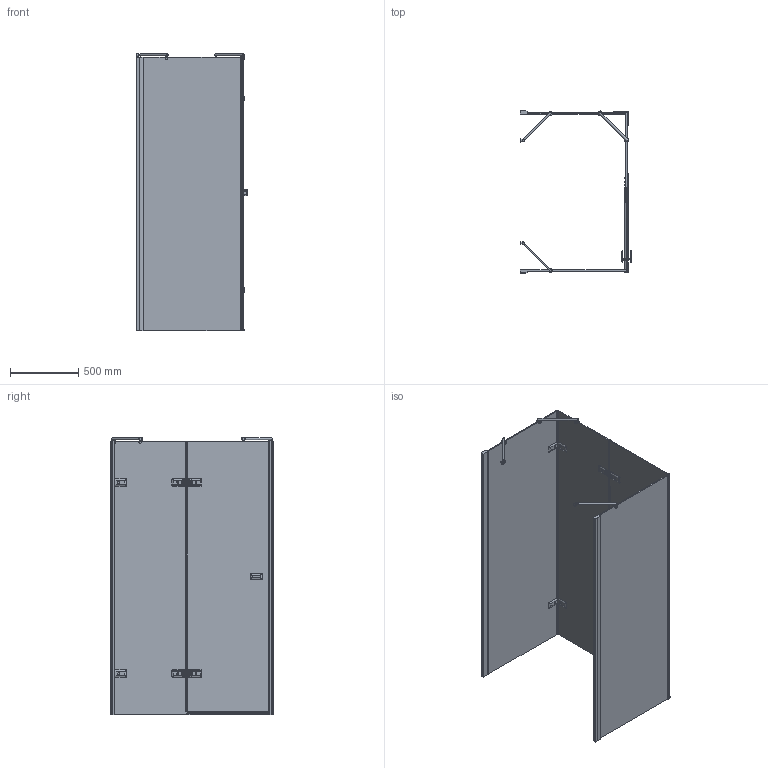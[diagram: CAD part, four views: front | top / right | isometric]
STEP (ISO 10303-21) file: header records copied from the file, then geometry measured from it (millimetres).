
FILE_DESCRIPTION(/* description */ (''),/* implementation_level */ '2;1');
FILE_NAME(/* name */ 'D:\55\TREND RECTAN GK-864AP\TREND RECTAN GK-864AP правая модель\TREND RECTAN GK-864AP ПРАВАЯ-3D.stp',/* time_stamp */ '2020-12-08T18:58:54+03:00',/* author */ ('User'),/* organization */ (''),/* preprocessor_version */ 'ST-DEVELOPER v15.2',/* originating_system */ 'Autodesk Inventor 2014',/* authorisation */ '');
FILE_SCHEMA (('AUTOMOTIVE_DESIGN { 1 0 10303 214 3 1 1 }'));
Products named in the file (1): TREND RECTAN GK-864AP ПРАВАЯ-
3D
Bounding box: 812.64 x 1187.6 x 2031.5 mm (x, y, z)
Volume: 45084386.5 mm3; surface area: 11353268.6 mm2
Topology: 5 solids, 22 shells, 1678 faces, 4398 edges, 2734 vertices
Faces by surface type: plane 962, cylinder 445, bspline 166, torus 45, cone 38, sphere 22
Full cylindrical faces by diameter (mm): 4 x2, 4.134 x2, 5 x6, 5.2 x2, 6 x6, 7.2 x4, 8 x2, 9 x8, 11 x2, 12 x4, 13 x8, 15 x3, 16 x8, 20 x6, 26 x2
Entity records: 69718 total; most frequent: CARTESIAN_POINT 28257, ORIENTED_EDGE 8332, DIRECTION 7982, EDGE_CURVE 4162, AXIS2_PLACEMENT_3D 2733, VERTEX_POINT 2665, LINE 2516, VECTOR 2516
